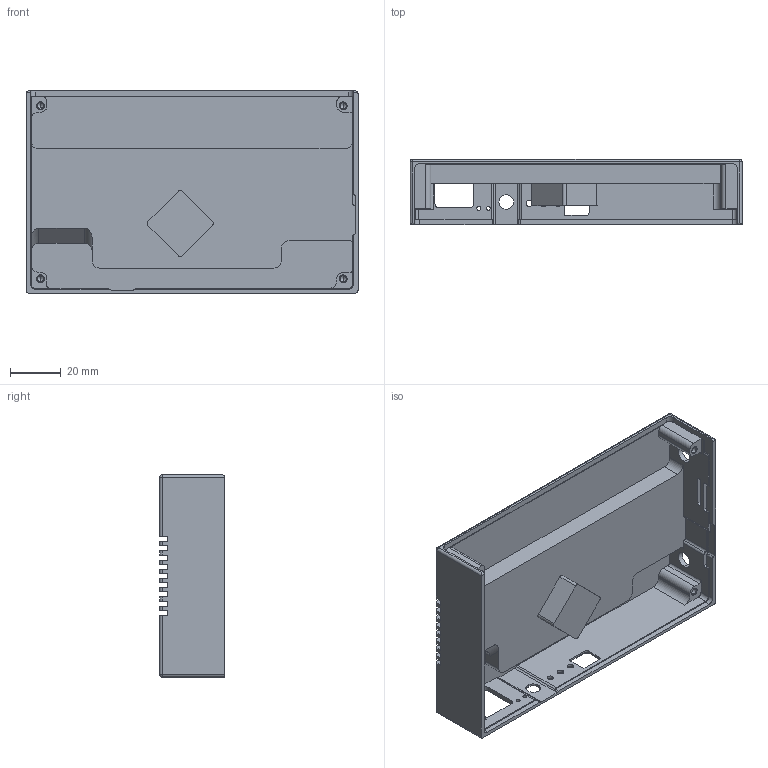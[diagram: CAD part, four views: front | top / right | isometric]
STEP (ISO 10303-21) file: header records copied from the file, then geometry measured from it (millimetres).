
FILE_DESCRIPTION (( 'STEP AP214' ), '1' );
FILE_NAME ('LubanCat 2 N ¶¥¸Ç.STEP', '2022-11-28T01:50:44', ( '' ), ( '' ), 'SwSTEP 2.0', 'SolidWorks 2021', '' );
FILE_SCHEMA (( 'AUTOMOTIVE_DESIGN' ));
Length unit declared in the file: millimetre
Products named in the file (1): LubanCat 2 N 階裔
Bounding box: 130.5 x 25.5 x 79.45 mm (x, y, z)
Volume: 70252.6 mm3; surface area: 43974 mm2
Topology: 1 solids, 1 shells, 266 faces, 760 edges, 488 vertices
Faces by surface type: cylinder 130, plane 110, cone 22, sphere 4
Entity records: 8831 total; most frequent: CARTESIAN_POINT 1556, DIRECTION 1543, ORIENTED_EDGE 1496, EDGE_CURVE 748, AXIS2_PLACEMENT_3D 537, VERTEX_POINT 488, VECTOR 469, LINE 469
